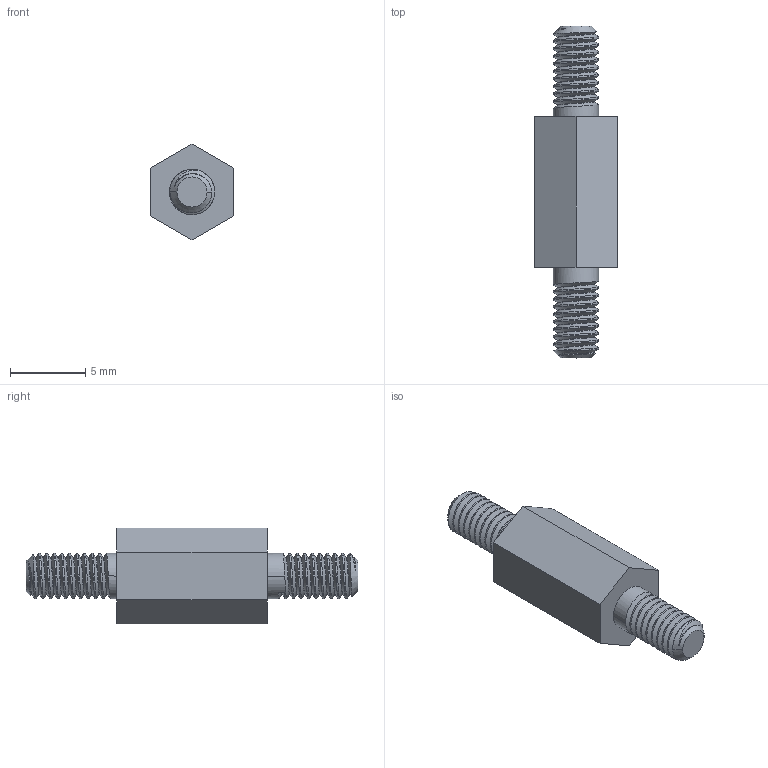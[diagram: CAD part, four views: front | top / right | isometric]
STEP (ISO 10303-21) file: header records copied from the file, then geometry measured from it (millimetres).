
FILE_DESCRIPTION (( 'STEP AP214' ), '1' );
FILE_NAME ('PCHNN-10.STEP', '2014-12-30T11:04:26', ( 'Tester2' ), ( '' ), 'SwSTEP 2.0', 'SolidWorks 2012', '' );
FILE_SCHEMA (( 'AUTOMOTIVE_DESIGN' ));
Length unit declared in the file: millimetre
Products named in the file (1): PCHNN-10
Bounding box: 5.5 x 22 x 6.35 mm (x, y, z)
Volume: 333 mm3; surface area: 399.4 mm2
Topology: 1 solids, 1 shells, 63 faces, 176 edges, 117 vertices
Faces by surface type: cylinder 40, plane 12, bspline 6, cone 5
Entity records: 5604 total; most frequent: CARTESIAN_POINT 3808, ORIENTED_EDGE 352, DIRECTION 201, EDGE_CURVE 176, VERTEX_POINT 117, AXIS2_PLACEMENT_3D 69, EDGE_LOOP 65, FACE_OUTER_BOUND 63
